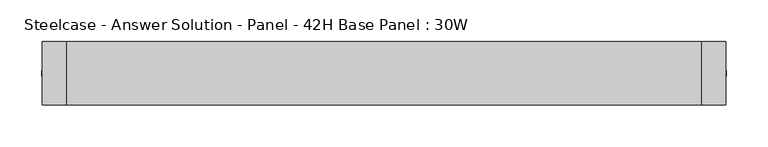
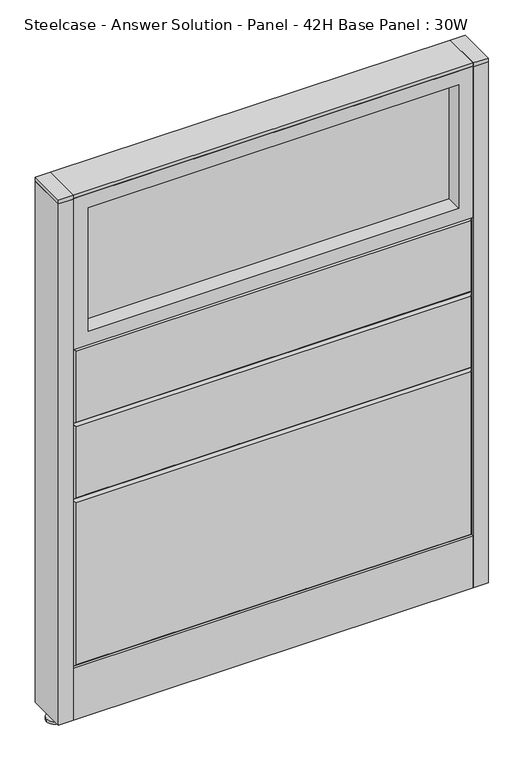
"""IFC4 building model written with IfcOpenShell, lengths in millimetres: furniture geometry, Steelcase - Answer Solution - Panel - 42H Base Panel : 30W."""

from ifc_helpers import new_model, si_unit, point, frame, frame_2d, origin, place, context, project, spatial, polyline, circle_curve, trimmed, segment, composite_curve, outline, extrude, faceted_brep, source, transform, mapped, element, save


def steelcase_answer_solution_panel_42h_base_panel_30w_f0172f9e(model_context):
    return source(origin(), model_context, "Body", "SolidModel", [
        extrude(outline(composite_curve([segment(trimmed(circle_curve(frame_2d((395.224, 0.0039657)), 5.08), [point((400.304, 0.0039657))], [point((390.144, 0.0039657))], False, "CARTESIAN"), True, "CONTINUOUS"), segment(trimmed(circle_curve(frame_2d((395.224, 0.0039657)), 5.08), [point((390.144, 0.0039657))], [point((400.304, 0.0039657))], False, "CARTESIAN"), True, "CONTINUOUS")], self_intersect=False)), frame((0.0, 0.0, 5.0799671), z_axis=(0.0, 0.0, 1.0), x_axis=(1.0, 0.0, 0.0)), (0.0, 0.0, 1.0), 10.414),
        extrude(outline(composite_curve([segment(trimmed(circle_curve(frame_2d((395.224, 0.0039657)), 15.24), [point((410.464, 0.0039657))], [point((379.984, 0.0039657))], False, "CARTESIAN"), True, "CONTINUOUS"), segment(trimmed(circle_curve(frame_2d((395.224, 0.0039657)), 15.24), [point((379.984, 0.0039657))], [point((410.464, 0.0039657))], False, "CARTESIAN"), True, "CONTINUOUS")], self_intersect=False)), frame((0.0, 0.0, -3.29e-05), z_axis=(0.0, 0.0, 1.0), x_axis=(1.0, 0.0, 0.0)), (0.0, 0.0, 1.0), 5.08),
        extrude(outline(polyline([(409.575, 38.1039851), (409.575, -38.0960149), (381.0, -38.0960149), (381.0, 38.1039851), (409.575, 38.1039851)])), frame((0.0, 0.0, 1065.8348), z_axis=(0.0, 0.0, 1.0), x_axis=(1.0, 0.0, 0.0)), (0.0, 0.0, 1.0), 7.3151671),
        extrude(outline(polyline([(409.575, 38.1039851), (409.575, -38.0960149), (381.0, -38.0960149), (381.0, 38.1039851), (409.575, 38.1039851)])), frame((0.0, 0.0, 15.4939671), z_axis=(0.0, 0.0, 1.0), x_axis=(1.0, 0.0, 0.0)), (0.0, 0.0, 1.0), 1050.3408329),
        extrude(outline(composite_curve([segment(trimmed(circle_curve(frame_2d((-395.224, 0.0039657)), 5.08), [point((-400.304, 0.0039657))], [point((-390.144, 0.0039657))], False, "CARTESIAN"), True, "CONTINUOUS"), segment(trimmed(circle_curve(frame_2d((-395.224, 0.0039657)), 5.08), [point((-390.144, 0.0039657))], [point((-400.304, 0.0039657))], False, "CARTESIAN"), True, "CONTINUOUS")], self_intersect=False)), frame((0.0, 0.0, 5.0799671), z_axis=(0.0, 0.0, 1.0), x_axis=(1.0, 0.0, 0.0)), (0.0, 0.0, 1.0), 10.414),
        extrude(outline(composite_curve([segment(trimmed(circle_curve(frame_2d((-395.224, 0.0039657)), 15.24), [point((-410.464, 0.0039657))], [point((-379.984, 0.0039657))], False, "CARTESIAN"), True, "CONTINUOUS"), segment(trimmed(circle_curve(frame_2d((-395.224, 0.0039657)), 15.24), [point((-379.984, 0.0039657))], [point((-410.464, 0.0039657))], False, "CARTESIAN"), True, "CONTINUOUS")], self_intersect=False)), frame((0.0, 0.0, -3.29e-05), z_axis=(0.0, 0.0, 1.0), x_axis=(1.0, 0.0, 0.0)), (0.0, 0.0, 1.0), 5.08),
        extrude(outline(polyline([(-409.575, 38.1039851), (-381.0, 38.1039851), (-381.0, -38.0960149), (-409.575, -38.0960149), (-409.575, 38.1039851)])), frame((0.0, 0.0, 1065.8348), z_axis=(0.0, 0.0, 1.0), x_axis=(1.0, 0.0, 0.0)), (0.0, 0.0, 1.0), 7.3151671),
        extrude(outline(polyline([(-409.575, 38.1039851), (-381.0, 38.1039851), (-381.0, -38.0960149), (-409.575, -38.0960149), (-409.575, 38.1039851)])), frame((0.0, 0.0, 15.4939671), z_axis=(0.0, 0.0, 1.0), x_axis=(1.0, 0.0, 0.0)), (0.0, 0.0, 1.0), 1050.3408329),
        extrude(outline(polyline([(-353.06, 6.346049), (353.06, 6.346049), (353.06, -6.353951), (-353.06, -6.353951), (-353.06, 6.346049)])), frame((0.0, 0.0, 789.94), z_axis=(0.0, 0.0, 1.0), x_axis=(1.0, 0.0, 0.0)), (0.0, 0.0, 1.0), 248.92),
        extrude(outline(polyline([(1066.8, -381.0), (762.0, -381.0), (762.0, 381.0), (1066.8, 381.0), (1066.8, -381.0)]), holes=[polyline([(1038.86, -353.06), (1038.86, 353.06), (789.94, 353.06), (789.94, -353.06), (1038.86, -353.06)])]), frame((0.0, -38.103951, 0.0), z_axis=(0.0, 1.0, 0.0), x_axis=(0.0, 0.0, 1.0)), (0.0, 0.0, 1.0), 76.2),
        faceted_brep([(-376.174, 38.1635011, 757.174), (376.174, 38.1635011, 757.174), (376.174, 38.1635011, 614.426), (-376.174, 38.1635011, 614.426), (-381.0, 33.3375011, 762.0), (-381.0, 33.3375011, 609.6), (381.0, 33.3375011, 609.6), (381.0, 33.3375011, 762.0)], [[[0, 1, 2, 3]], [[4, 5, 6, 7]], [[4, 7, 1, 0]], [[7, 6, 2, 1]], [[6, 5, 3, 2]], [[5, 4, 0, 3]]]),
        faceted_brep([(-376.174, 38.1635011, 604.774), (376.174, 38.1635011, 604.774), (376.174, 38.1635011, 462.026), (-376.174, 38.1635011, 462.026), (-381.0, 33.3375011, 609.6), (-381.0, 33.3375011, 457.2), (381.0, 33.3375011, 457.2), (381.0, 33.3375011, 609.6)], [[[0, 1, 2, 3]], [[4, 5, 6, 7]], [[4, 7, 1, 0]], [[7, 6, 2, 1]], [[6, 5, 3, 2]], [[5, 4, 0, 3]]]),
        faceted_brep([(-376.174, 38.1635011, 452.374), (376.174, 38.1635011, 452.374), (376.174, 38.1635011, 125.476), (-376.174, 38.1635011, 125.476), (-381.0, 33.3375011, 457.2), (-381.0, 33.3375011, 120.65), (381.0, 33.3375011, 120.65), (381.0, 33.3375011, 457.2)], [[[0, 1, 2, 3]], [[4, 5, 6, 7]], [[4, 7, 1, 0]], [[7, 6, 2, 1]], [[6, 5, 3, 2]], [[5, 4, 0, 3]]]),
        extrude(outline(polyline([(353.06, -6.346049), (-353.06, -6.346049), (-353.06, 6.353951), (353.06, 6.353951), (353.06, -6.346049)])), frame((0.0, 0.0, 789.94), z_axis=(0.0, 0.0, 1.0), x_axis=(1.0, 0.0, 0.0)), (0.0, 0.0, 1.0), 248.92),
        extrude(outline(polyline([(1066.8, 381.0), (1066.8, -381.0), (762.0, -381.0), (762.0, 381.0), (1066.8, 381.0)]), holes=[polyline([(1038.86, 353.06), (789.94, 353.06), (789.94, -353.06), (1038.86, -353.06), (1038.86, 353.06)])]), frame((0.0, -38.096049, 0.0), z_axis=(0.0, 1.0, 0.0), x_axis=(0.0, 0.0, 1.0)), (0.0, 0.0, 1.0), 76.2),
        faceted_brep([(376.174, -38.1635011, 757.174), (-376.174, -38.1635011, 757.174), (-376.174, -38.1635011, 614.426), (376.174, -38.1635011, 614.426), (381.0, -33.3375011, 762.0), (381.0, -33.3375011, 609.6), (-381.0, -33.3375011, 609.6), (-381.0, -33.3375011, 762.0)], [[[0, 1, 2, 3]], [[4, 5, 6, 7]], [[4, 7, 1, 0]], [[7, 6, 2, 1]], [[6, 5, 3, 2]], [[5, 4, 0, 3]]]),
        faceted_brep([(376.174, -38.1635011, 604.774), (-376.174, -38.1635011, 604.774), (-376.174, -38.1635011, 462.026), (376.174, -38.1635011, 462.026), (381.0, -33.3375011, 609.6), (381.0, -33.3375011, 457.2), (-381.0, -33.3375011, 457.2), (-381.0, -33.3375011, 609.6)], [[[0, 1, 2, 3]], [[4, 5, 6, 7]], [[4, 7, 1, 0]], [[7, 6, 2, 1]], [[6, 5, 3, 2]], [[5, 4, 0, 3]]]),
        faceted_brep([(376.174, -38.1635011, 452.374), (-376.174, -38.1635011, 452.374), (-376.174, -38.1635011, 125.476), (376.174, -38.1635011, 125.476), (381.0, -33.3375011, 457.2), (381.0, -33.3375011, 120.65), (-381.0, -33.3375011, 120.65), (-381.0, -33.3375011, 457.2)], [[[0, 1, 2, 3]], [[4, 5, 6, 7]], [[4, 7, 1, 0]], [[7, 6, 2, 1]], [[6, 5, 3, 2]], [[5, 4, 0, 3]]]),
        extrude(outline(polyline([(381.0, 38.1000194), (381.0, -38.1000194), (-381.0, -38.1000194), (-381.0, 38.1000194), (381.0, 38.1000194)])), frame((0.0, 0.0, 1066.8), z_axis=(0.0, 0.0, 1.0), x_axis=(1.0, 0.0, 0.0)), (0.0, 0.0, 1.0), 6.35),
        extrude(outline(polyline([(25.4000011, 119.8575157), (25.4000011, 120.65), (38.1000194, 120.65), (38.1000194, 15.494), (37.3075215, 15.494), (37.3075215, 119.8575157), (25.4000011, 119.8575157)])), frame((-381.0, 0.0, 0.0), z_axis=(1.0, 0.0, 0.0), x_axis=(0.0, 1.0, 0.0)), (0.0, 0.0, 1.0), 762.0),
        extrude(outline(polyline([(-25.4000011, 119.8575157), (-37.3075215, 119.8575157), (-37.3075215, 15.494), (-38.1000194, 15.494), (-38.1000194, 120.65), (-25.4000011, 120.65), (-25.4000011, 119.8575157)])), frame((-381.0, 0.0, 0.0), z_axis=(1.0, 0.0, 0.0), x_axis=(0.0, 1.0, 0.0)), (0.0, 0.0, 1.0), 762.0),
    ])


if __name__ == "__main__":
    model = new_model("IFC4")
    model_context = context("Model", 3, world=origin())
    ifc_project = project(units=[si_unit("LENGTHUNIT", "METRE", prefix="MILLI")], contexts=[model_context])
    site = spatial("IfcSite", under=ifc_project)
    building = spatial("IfcBuilding", under=site)
    placement = place(None, origin())
    steelcase_answer_solution_panel_42h_base_panel_30w_shape = steelcase_answer_solution_panel_42h_base_panel_30w_f0172f9e(model_context)
    element("IfcFurniture", 1, ObjectType="Steelcase - Answer Solution - Panel - 42H Base Panel : 30W", at=placement, inside=building, context=model_context, shape_type="MappedRepresentation", body=[
        mapped(steelcase_answer_solution_panel_42h_base_panel_30w_shape, transform((0.0, 0.0, 0.0), x_axis=(1.0, 0.0, 0.0), y_axis=(0.0, 1.0, 0.0), z_axis=(0.0, 0.0, 1.0))),
    ])
    save(model, "model.ifc")
